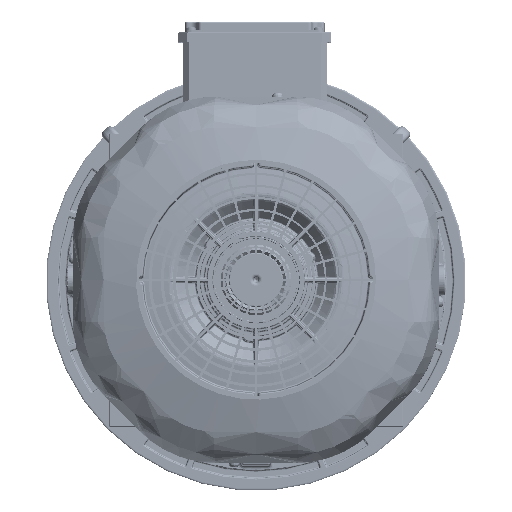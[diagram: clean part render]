
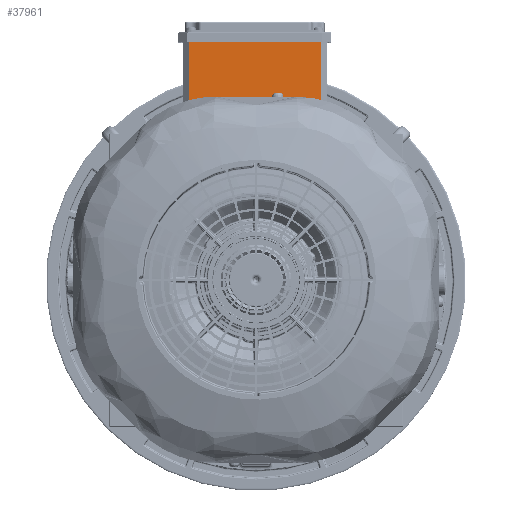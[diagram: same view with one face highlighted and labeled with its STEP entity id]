
A CAD part, top view. The second image highlights one B-rep face of the part: STEP entity #37961.
In plain terms, the highlighted planar face has unit normal (0, 0, 1).
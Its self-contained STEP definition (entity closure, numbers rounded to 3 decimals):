
#26286=PLANE('',#234578);
#37961=ADVANCED_FACE('',(#51980),#26286,.T.);
#51980=FACE_OUTER_BOUND('',#66432,.T.);
#66432=EDGE_LOOP('',(#128654,#128655,#128656,#128657));
#128654=ORIENTED_EDGE('',*,*,#185951,.T.);
#128655=ORIENTED_EDGE('',*,*,#185953,.T.);
#128656=ORIENTED_EDGE('',*,*,#185954,.F.);
#128657=ORIENTED_EDGE('',*,*,#185955,.F.);
#157729=VERTEX_POINT('',#434317);
#157730=VERTEX_POINT('',#434319);
#157731=VERTEX_POINT('',#434323);
#157732=VERTEX_POINT('',#434325);
#185951=EDGE_CURVE('',#157730,#157729,#202028,.T.);
#185953=EDGE_CURVE('',#157729,#157731,#202030,.T.);
#185954=EDGE_CURVE('',#157732,#157731,#202031,.T.);
#185955=EDGE_CURVE('',#157730,#157732,#202032,.T.);
#202028=LINE('',#434318,#213297);
#202030=LINE('',#434322,#213299);
#202031=LINE('',#434324,#213300);
#202032=LINE('',#434326,#213301);
#213297=VECTOR('',#285449,1.);
#213299=VECTOR('',#285453,1.);
#213300=VECTOR('',#285454,1.);
#213301=VECTOR('',#285455,1.);
#234578=AXIS2_PLACEMENT_3D('',#434327,#285456,#285457);
#285449=DIRECTION('',(0.,1.,0.));
#285453=DIRECTION('',(-1.,0.,0.));
#285454=DIRECTION('',(0.,1.,0.));
#285455=DIRECTION('',(-1.,0.,0.));
#285456=DIRECTION('',(0.,0.,1.));
#285457=DIRECTION('',(1.,0.,0.));
#434317=CARTESIAN_POINT('',(54.002,198.,128.498));
#434318=CARTESIAN_POINT('',(54.002,142.,128.498));
#434319=CARTESIAN_POINT('',(54.002,140.,128.498));
#434322=CARTESIAN_POINT('',(54.002,198.,128.498));
#434323=CARTESIAN_POINT('',(-55.998,198.,128.498));
#434324=CARTESIAN_POINT('',(-55.998,142.,128.498));
#434325=CARTESIAN_POINT('',(-55.998,140.,128.498));
#434326=CARTESIAN_POINT('',(54.002,140.,128.498));
#434327=CARTESIAN_POINT('',(-55.998,142.,128.498));
